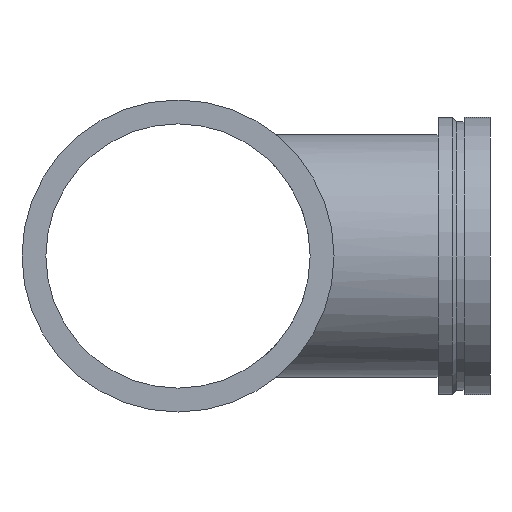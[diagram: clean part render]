
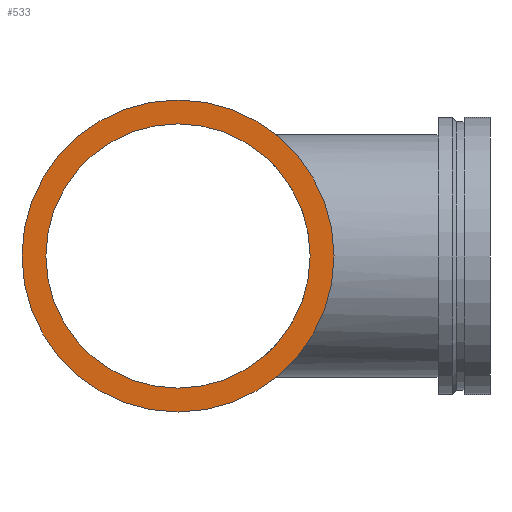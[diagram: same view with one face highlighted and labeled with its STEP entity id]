
A CAD part, left-side view. The second image highlights one B-rep face of the part: STEP entity #533.
In plain terms, the highlighted planar face has unit normal (-1, 0, 0).
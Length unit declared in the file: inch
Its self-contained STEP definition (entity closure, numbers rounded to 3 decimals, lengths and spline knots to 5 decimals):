
#58=FACE_BOUND('',#128,.T.);
#67=PLANE('',#626);
#92=FACE_OUTER_BOUND('',#127,.T.);
#127=EDGE_LOOP('',(#465,#466));
#128=EDGE_LOOP('',(#467,#468));
#151=CIRCLE('',#587,9.);
#152=CIRCLE('',#588,9.);
#175=CIRCLE('',#624,7.625);
#176=CIRCLE('',#625,7.625);
#239=VERTEX_POINT('',#1105);
#240=VERTEX_POINT('',#1107);
#263=VERTEX_POINT('',#1174);
#264=VERTEX_POINT('',#1176);
#299=EDGE_CURVE('',#239,#240,#151,.T.);
#300=EDGE_CURVE('',#240,#239,#152,.T.);
#331=EDGE_CURVE('',#264,#263,#175,.T.);
#332=EDGE_CURVE('',#263,#264,#176,.T.);
#465=ORIENTED_EDGE('',*,*,#300,.F.);
#466=ORIENTED_EDGE('',*,*,#299,.F.);
#467=ORIENTED_EDGE('',*,*,#331,.T.);
#468=ORIENTED_EDGE('',*,*,#332,.T.);
#533=ADVANCED_FACE('',(#92,#58),#67,.T.);
#587=AXIS2_PLACEMENT_3D('',#1108,#716,#717);
#588=AXIS2_PLACEMENT_3D('',#1109,#718,#719);
#624=AXIS2_PLACEMENT_3D('',#1177,#798,#799);
#625=AXIS2_PLACEMENT_3D('',#1178,#800,#801);
#626=AXIS2_PLACEMENT_3D('',#1179,#802,#803);
#716=DIRECTION('center_axis',(1.,0.,0.));
#717=DIRECTION('ref_axis',(0.,0.,1.));
#718=DIRECTION('center_axis',(1.,0.,0.));
#719=DIRECTION('ref_axis',(0.,0.,1.));
#798=DIRECTION('center_axis',(1.,0.,0.));
#799=DIRECTION('ref_axis',(0.,0.,1.));
#800=DIRECTION('center_axis',(1.,0.,0.));
#801=DIRECTION('ref_axis',(0.,0.,1.));
#802=DIRECTION('center_axis',(-1.,0.,0.));
#803=DIRECTION('ref_axis',(0.,0.,-1.));
#1105=CARTESIAN_POINT('',(-18.,9.,0.));
#1107=CARTESIAN_POINT('',(-18.,-9.,0.));
#1108=CARTESIAN_POINT('Origin',(-18.,0.,0.));
#1109=CARTESIAN_POINT('Origin',(-18.,0.,0.));
#1174=CARTESIAN_POINT('',(-18.,7.625,0.));
#1176=CARTESIAN_POINT('',(-18.,-7.625,0.));
#1177=CARTESIAN_POINT('Origin',(-18.,0.,0.));
#1178=CARTESIAN_POINT('Origin',(-18.,0.,0.));
#1179=CARTESIAN_POINT('Origin',(-18.,-9.,0.));
